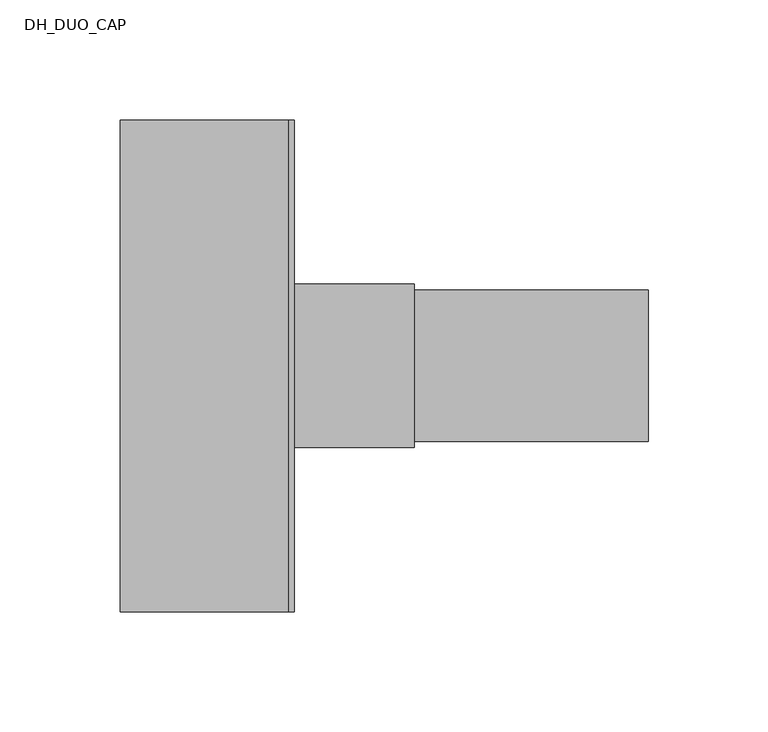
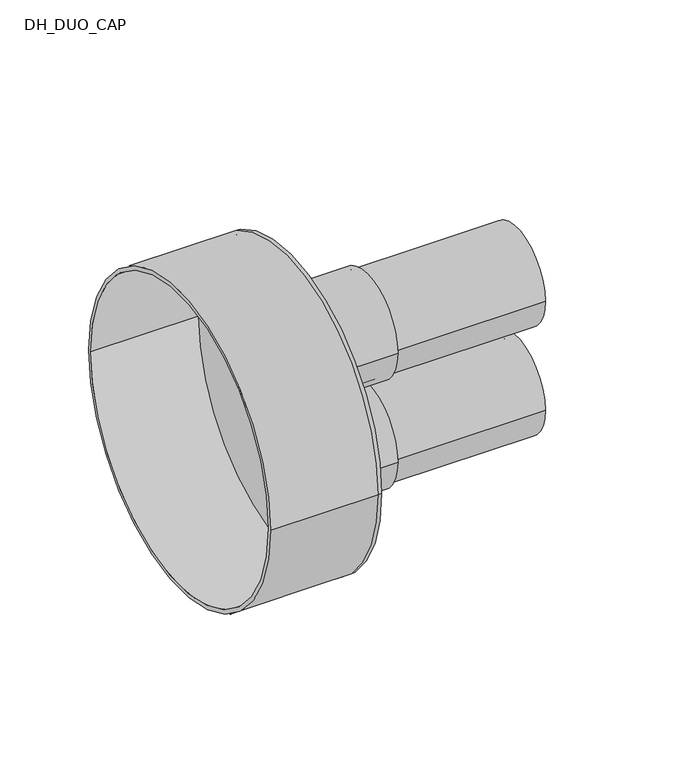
"""IFC4 building model written with IfcOpenShell, lengths in millimetres: pipe fitting geometry, DH_DUO_CAP : INSULPEX DUO + 11 Heating - Rubber Cap."""

import ifcopenshell
import ifcopenshell.guid

model = None  # the IFC model being written
_history = None  # IfcOwnerHistory: only IFC2X3 demands one
_inside = {}  # id of a spatial element -> (the spatial element, [elements in it])
_under = {}  # id of a project, library or spatial element -> (it, [spatial elements below it])
_declared = {}  # id of a project -> (the project, [libraries it declares])
_typed = {}  # id of a type object -> (the type object, [elements of that type])
_made_of = {}  # id of a material, layer set ... -> (it, [elements and type objects made of it])


def new_model(schema):
    """Start an empty IFC model of exactly this schema.

    Asked for "IFC4X3", IfcOpenShell would pick the latest addendum, in which some entities
    have other attributes; the version numbers below select the first issue.
    IFC2X3 requires an IfcOwnerHistory on every rooted entity: one is made here for all.
    """
    global model, _history
    if schema == "IFC4X3":
        model = ifcopenshell.file(schema_version=(4, 3, 0, 0))
    else:
        model = ifcopenshell.file(schema=schema)
    _inside.clear()
    _under.clear()
    _declared.clear()
    _typed.clear()
    _made_of.clear()
    _history = None
    if model.schema == "IFC2X3":
        org = make("IfcOrganization", Name="unknown")
        user = make(
            "IfcPersonAndOrganization",
            ThePerson=make("IfcPerson", FamilyName="unknown"),
            TheOrganization=org,
        )
        app = make(
            "IfcApplication",
            ApplicationDeveloper=org,
            Version="unknown",
            ApplicationFullName="unknown",
            ApplicationIdentifier="unknown",
        )
        _history = make(
            "IfcOwnerHistory",
            OwningUser=user,
            OwningApplication=app,
            ChangeAction="ADDED",
            CreationDate=0,
        )
    return model


def make(cls, **values):
    """One entity of the class cls with the attributes given. An attribute that is None is left unset."""
    return model.create_entity(
        cls, **{name: value for name, value in values.items() if value is not None}
    )


def rooted(cls, **values):
    """An entity with a GlobalId (a new one), such as an element, a storey or a relation."""
    return make(cls, GlobalId=ifcopenshell.guid.new(), OwnerHistory=_history, **values)


def si_unit(unit_type, name, prefix=None):
    """IfcSIUnit, for example si_unit("LENGTHUNIT", "METRE", prefix="MILLI")."""
    return make("IfcSIUnit", UnitType=unit_type, Prefix=prefix, Name=name)


def assignment(units):
    """IfcUnitAssignment: the units of a project."""
    return None if units is None else make("IfcUnitAssignment", Units=units)


def point(xyz):
    """IfcCartesianPoint."""
    return None if xyz is None else make("IfcCartesianPoint", Coordinates=xyz)


def direction(xyz):
    """IfcDirection."""
    return None if xyz is None else make("IfcDirection", DirectionRatios=xyz)


def frame(location, z_axis=None, x_axis=None):
    """IfcAxis2Placement3D, a coordinate frame: its origin and axes. An axis left out is left unset."""
    return make(
        "IfcAxis2Placement3D",
        Location=point(location),
        Axis=direction(z_axis),
        RefDirection=direction(x_axis),
    )


def frame_2d(location, x_axis=None):
    """IfcAxis2Placement2D, a coordinate frame in the plane: its origin and x axis."""
    return make(
        "IfcAxis2Placement2D", Location=point(location), RefDirection=direction(x_axis)
    )


def origin():
    """The frame at (0, 0, 0) with its axes left unset."""
    return frame((0.0, 0.0, 0.0))


def place(relative_to, where):
    """IfcLocalPlacement: puts the frame where relative to a parent placement (None: the world)."""
    return make(
        "IfcLocalPlacement", PlacementRelTo=relative_to, RelativePlacement=where
    )


def context(
    kind, dimensions, precision=None, world=None, true_north=None, identifier=None
):
    """IfcGeometricRepresentationContext, for example the 3D "Model" context."""
    return make(
        "IfcGeometricRepresentationContext",
        ContextIdentifier=identifier,
        ContextType=kind,
        CoordinateSpaceDimension=dimensions,
        Precision=precision,
        WorldCoordinateSystem=world,
        TrueNorth=true_north,
    )


def project(units=None, contexts=None):
    """IfcProject with its units and contexts."""
    return rooted(
        "IfcProject",
        Name="project",
        RepresentationContexts=contexts,
        UnitsInContext=assignment(units),
    )


def spatial(cls, under=None, at=None, **own):
    """A site, building, storey or space (cls), placed at a placement, below another one or the project."""
    s = rooted(cls, ObjectPlacement=at, **own)
    if under is not None:
        _under.setdefault(under.id(), (under, []))[1].append(s)
    return s


def polyline(points):
    """IfcPolyline through the points."""
    return make("IfcPolyline", Points=[point(p) for p in points])


def circle_curve(where, radius):
    """IfcCircle in the frame where."""
    return make("IfcCircle", Position=where, Radius=radius)


def trimmed(basis, trim1, trim2, sense, master):
    """IfcTrimmedCurve: the piece of a basis curve between two trims."""
    return make(
        "IfcTrimmedCurve",
        BasisCurve=basis,
        Trim1=trim1,
        Trim2=trim2,
        SenseAgreement=sense,
        MasterRepresentation=master,
    )


def segment(curve, same_sense, transition):
    """IfcCompositeCurveSegment."""
    return make(
        "IfcCompositeCurveSegment",
        Transition=transition,
        SameSense=same_sense,
        ParentCurve=curve,
    )


def composite_curve(segments, self_intersect=None):
    """IfcCompositeCurve: segments joined end to end."""
    return make("IfcCompositeCurve", Segments=segments, SelfIntersect=self_intersect)


def outline(outer, holes=None, kind="AREA"):
    """IfcArbitraryClosedProfileDef: a profile drawn as a closed curve; with holes, ...WithVoids."""
    if holes is None:
        return make("IfcArbitraryClosedProfileDef", ProfileType=kind, OuterCurve=outer)
    return make(
        "IfcArbitraryProfileDefWithVoids",
        ProfileType=kind,
        OuterCurve=outer,
        InnerCurves=holes,
    )


def extrude(swept, where, along, depth):
    """IfcExtrudedAreaSolid: the profile swept, set in the frame where, extruded along a direction by depth."""
    return make(
        "IfcExtrudedAreaSolid",
        SweptArea=swept,
        Position=where,
        ExtrudedDirection=direction(along),
        Depth=depth,
    )


def shape(context_of_items, identifier, shape_type, items):
    """IfcShapeRepresentation: the items that make up one representation, for example the "Body"."""
    return make(
        "IfcShapeRepresentation",
        ContextOfItems=context_of_items,
        RepresentationIdentifier=identifier,
        RepresentationType=shape_type,
        Items=items,
    )


def source(mapping_origin, context_of_items, identifier, shape_type, items):
    """IfcRepresentationMap: a shape defined once, which mapped items show again and again."""
    return make(
        "IfcRepresentationMap",
        MappingOrigin=mapping_origin,
        MappedRepresentation=shape(context_of_items, identifier, shape_type, items),
    )


def transform(
    local_origin,
    x_axis=None,
    y_axis=None,
    z_axis=None,
    scale=None,
    scale2=None,
    scale3=None,
    uniform=True,
):
    """IfcCartesianTransformationOperator3D, or its non-uniform kind. x_axis, y_axis, z_axis: its Axis1, 2, 3."""
    if uniform:
        return make(
            "IfcCartesianTransformationOperator3D",
            Axis1=direction(x_axis),
            Axis2=direction(y_axis),
            LocalOrigin=point(local_origin),
            Scale=scale,
            Axis3=direction(z_axis),
        )
    return make(
        "IfcCartesianTransformationOperator3DnonUniform",
        Axis1=direction(x_axis),
        Axis2=direction(y_axis),
        LocalOrigin=point(local_origin),
        Scale=scale,
        Axis3=direction(z_axis),
        Scale2=scale2,
        Scale3=scale3,
    )


def mapped(mapping_source, mapping_target):
    """IfcMappedItem: shows the shape of a source again, moved by a transform."""
    return make(
        "IfcMappedItem", MappingSource=mapping_source, MappingTarget=mapping_target
    )


def made_of(thing, what):
    """Note that an element or type object is made of a material, layer set ...; save() writes the relation."""
    if what is not None:
        _made_of.setdefault(what.id(), (what, []))[1].append(thing)
    return thing


def element(
    cls,
    number,
    at=None,
    inside=None,
    cuts=None,
    type_object=None,
    material=None,
    context=None,
    identifier="Body",
    shape_type=None,
    held_by="IfcProductDefinitionShape",
    body=None,
    shapes=None,
    **own,
):
    """One element of the class cls, such as IfcWall. Its Tag is "e" and its number.

    at: its placement. inside: the storey or other place that contains it. cuts: it is an
    opening in that element (IfcRelVoidsElement). A single representation is given by context,
    identifier, shape_type and body (its items); several are given by shapes. held_by: the class
    of the entity that holds the representations. save() writes the other relations.
    """
    e = rooted(cls, Tag="e%d" % number, ObjectPlacement=at, **own)
    if body is not None:
        shapes = [shape(context, identifier, shape_type, body)]
    if shapes is not None:
        e.Representation = make(held_by, Representations=shapes)
    if inside is not None:
        _inside.setdefault(inside.id(), (inside, []))[1].append(e)
    if cuts is not None:
        rooted(
            "IfcRelVoidsElement", RelatingBuildingElement=cuts, RelatedOpeningElement=e
        )
    if type_object is not None:
        _typed.setdefault(type_object.id(), (type_object, []))[1].append(e)
    return made_of(e, material)


def aggregate(whole, parts):
    """IfcRelAggregates: a whole, such as a stair, and the parts it consists of."""
    return rooted("IfcRelAggregates", RelatingObject=whole, RelatedObjects=parts)


def save(model, path):
    """Write the relations noted so far, then the file.

    IfcRelAggregates (storeys below a building ...), IfcRelContainedInSpatialStructure (elements
    in a storey), IfcRelDefinesByType, IfcRelAssociatesMaterial and IfcRelDeclares: one each for
    every whole, place, type object, material and project.
    """
    for whole, parts in _under.values():
        aggregate(whole, parts)
    for where, things in _inside.values():
        rooted(
            "IfcRelContainedInSpatialStructure",
            RelatedElements=things,
            RelatingStructure=where,
        )
    for kind, things in _typed.values():
        rooted("IfcRelDefinesByType", RelatedObjects=things, RelatingType=kind)
    for what, things in _made_of.values():
        rooted("IfcRelAssociatesMaterial", RelatedObjects=things, RelatingMaterial=what)
    for by, libraries in _declared.values():
        rooted("IfcRelDeclares", RelatingContext=by, RelatedDefinitions=libraries)
    model.write(path)


def plane_surface(at):
    """IfcPlane: the flat surface through the origin of the frame at, square to its z axis."""
    return make("IfcPlane", Position=at)


def cylinder_surface(at, radius):
    """IfcCylindricalSurface: all points at the distance radius from the z axis of the frame at."""
    return make("IfcCylindricalSurface", Position=at, Radius=radius)


def revolved_surface(curve, axis_point, axis_direction):
    """IfcSurfaceOfRevolution: the curve turned about the line through axis_point along axis_direction."""
    return make(
        "IfcSurfaceOfRevolution",
        SweptCurve=make("IfcArbitraryOpenProfileDef", ProfileType="CURVE", Curve=curve),
        AxisPosition=make("IfcAxis1Placement", Location=point(axis_point), Axis=direction(axis_direction)),
    )


def advanced_brep(points, edges, surfaces, faces):
    """IfcAdvancedBrep: a solid bounded by faces that lie on surfaces and meet in shared edges.

    An edge is (start, end): straight between two places in points (the first is 0);
    or (start, end, curve); or (start, end, curve, False) where it runs against its curve.
    A face is (place in surfaces, loops), or (place, loops, False) where it looks against
    its surface's normal. A loop lists edges by number (the first is 1), with a minus sign
    where the edge is run from its end to its start. The first loop is the outer one.
    """
    corners = [point(p) for p in points]
    vertices = [make("IfcVertexPoint", VertexGeometry=c) for c in corners]
    made = []
    for start, end, *more in edges:
        made.append(
            make(
                "IfcEdgeCurve",
                EdgeStart=vertices[start],
                EdgeEnd=vertices[end],
                EdgeGeometry=more[0] if more else make("IfcPolyline", Points=[corners[start], corners[end]]),
                SameSense=more[1] if len(more) > 1 else True,
            )
        )
    hull = []
    for where, loops, *sense in faces:
        bounds = []
        for j, loop in enumerate(loops):
            ring = [make("IfcOrientedEdge", EdgeElement=made[abs(k) - 1], Orientation=k > 0) for k in loop]
            bounds.append(
                make(
                    "IfcFaceOuterBound" if j == 0 else "IfcFaceBound",
                    Bound=make("IfcEdgeLoop", EdgeList=ring),
                    Orientation=True,
                )
            )
        hull.append(make("IfcAdvancedFace", Bounds=bounds, FaceSurface=surfaces[where], SameSense=sense[0] if sense else True))
    return make("IfcAdvancedBrep", Outer=make("IfcClosedShell", CfsFaces=hull))


def dh_duo_cap_72990c74(model_context):
    return source(origin(), model_context, "Body", "SolidModel", [
        extrude(outline(composite_curve([segment(trimmed(circle_curve(frame_2d((0.0, -37.5)), 31.5), [point((-31.5, -37.5))], [point((31.5, -37.5))], False, "CARTESIAN"), True, "CONTINUOUS"), segment(trimmed(circle_curve(frame_2d((0.0, -37.5)), 31.5), [point((31.5, -37.5))], [point((-31.5, -37.5))], False, "CARTESIAN"), True, "CONTINUOUS")], self_intersect=False), holes=[composite_curve([segment(trimmed(circle_curve(frame_2d((0.0, -37.5)), 25.7), [point((-25.7, -37.5))], [point((25.7, -37.5))], True, "CARTESIAN"), True, "CONTINUOUS"), segment(trimmed(circle_curve(frame_2d((0.0, -37.5)), 25.7), [point((25.7, -37.5))], [point((-25.7, -37.5))], True, "CARTESIAN"), True, "CONTINUOUS")], self_intersect=False)]), frame((0.0, 0.0, 0.0), z_axis=(1.0, 0.0, 0.0), x_axis=(0.0, 1.0, 0.0)), (0.0, 0.0, 1.0), 150.0),
        extrude(outline(composite_curve([segment(trimmed(circle_curve(frame_2d((0.0, 37.5)), 31.5), [point((-31.5, 37.5))], [point((31.5, 37.5))], False, "CARTESIAN"), True, "CONTINUOUS"), segment(trimmed(circle_curve(frame_2d((0.0, 37.5)), 31.5), [point((31.5, 37.5))], [point((-31.5, 37.5))], False, "CARTESIAN"), True, "CONTINUOUS")], self_intersect=False), holes=[composite_curve([segment(trimmed(circle_curve(frame_2d((0.0, 37.5)), 25.7), [point((-25.7, 37.5))], [point((25.7, 37.5))], True, "CARTESIAN"), True, "CONTINUOUS"), segment(trimmed(circle_curve(frame_2d((0.0, 37.5)), 25.7), [point((25.7, 37.5))], [point((-25.7, 37.5))], True, "CARTESIAN"), True, "CONTINUOUS")], self_intersect=False)]), frame((0.0, 0.0, 0.0), z_axis=(1.0, 0.0, 0.0), x_axis=(0.0, 1.0, 0.0)), (0.0, 0.0, 1.0), 150.0),
        advanced_brep(
        [(-70.0, -102.5, 0.0), (-70.0, 102.5, 0.0), (-70.0, -100.0, 0.0), (-70.0, 100.0, 0.0), (0.0, -100.0, 0.0), (0.0, 100.0, 0.0), (0.0, -102.5, 0.0), (0.0, 102.5, 0.0), (0.0, 31.5, 37.5), (0.0, -31.5, 37.5), (0.0, 31.5, -37.5), (0.0, -31.5, -37.5), (2.5, -102.5, 0.0), (2.5, 102.5, 0.0), (2.5, -31.5, 37.5), (2.5, 31.5, 37.5), (2.5, -31.5, -37.5), (2.5, 31.5, -37.5)],
        [
            (0, 1, circle_curve(frame((-70.0, 0.0, 0.0), z_axis=(-1.0, 0.0, 0.0), x_axis=(0.0, 1.0, 0.0)), 102.5)),
            (1, 0, circle_curve(frame((-70.0, 0.0, 0.0), z_axis=(-1.0, 0.0, 0.0), x_axis=(0.0, 1.0, 0.0)), 102.5)),
            (2, 3, circle_curve(frame((-70.0, 0.0, 0.0), z_axis=(1.0, 0.0, 0.0), x_axis=(0.0, 1.0, 0.0)), 100.0)),
            (3, 2, circle_curve(frame((-70.0, 0.0, 0.0), z_axis=(1.0, 0.0, 0.0), x_axis=(0.0, 1.0, 0.0)), 100.0)),
            (2, 4),
            (4, 5, circle_curve(frame((0.0, 0.0, 0.0), z_axis=(1.0, 0.0, 0.0), x_axis=(0.0, 1.0, 0.0)), 100.0)),
            (5, 3),
            (5, 4, circle_curve(frame((0.0, 0.0, 0.0), z_axis=(1.0, 0.0, 0.0), x_axis=(0.0, 1.0, 0.0)), 100.0)),
            (0, 6),
            (6, 7, circle_curve(frame((0.0, 0.0, 0.0), z_axis=(-1.0, 0.0, 0.0), x_axis=(0.0, 1.0, 0.0)), 102.5)),
            (7, 1),
            (7, 6, circle_curve(frame((0.0, 0.0, 0.0), z_axis=(-1.0, 0.0, 0.0), x_axis=(0.0, 1.0, 0.0)), 102.5)),
            (8, 9, circle_curve(frame((0.0, 0.0, 37.5), z_axis=(1.0, 0.0, 0.0), x_axis=(0.0, 1.0, 0.0)), 31.5)),
            (9, 8, circle_curve(frame((0.0, 0.0, 37.5), z_axis=(1.0, 0.0, 0.0), x_axis=(0.0, 1.0, 0.0)), 31.5)),
            (10, 11, circle_curve(frame((0.0, 0.0, -37.5), z_axis=(1.0, 0.0, 0.0), x_axis=(0.0, 1.0, 0.0)), 31.5)),
            (11, 10, circle_curve(frame((0.0, 0.0, -37.5), z_axis=(1.0, 0.0, 0.0), x_axis=(0.0, 1.0, 0.0)), 31.5)),
            (12, 13, circle_curve(frame((2.5, 0.0, 0.0), z_axis=(1.0, 0.0, 0.0), x_axis=(0.0, 1.0, 0.0)), 102.5)),
            (13, 12, circle_curve(frame((2.5, 0.0, 0.0), z_axis=(1.0, 0.0, 0.0), x_axis=(0.0, 1.0, 0.0)), 102.5)),
            (14, 15, circle_curve(frame((2.5, 0.0, 37.5), z_axis=(-1.0, 0.0, 0.0), x_axis=(0.0, 1.0, 0.0)), 31.5)),
            (15, 14, circle_curve(frame((2.5, 0.0, 37.5), z_axis=(-1.0, 0.0, 0.0), x_axis=(0.0, 1.0, 0.0)), 31.5)),
            (16, 17, circle_curve(frame((2.5, 0.0, -37.5), z_axis=(-1.0, 0.0, 0.0), x_axis=(0.0, 1.0, 0.0)), 31.5)),
            (17, 16, circle_curve(frame((2.5, 0.0, -37.5), z_axis=(-1.0, 0.0, 0.0), x_axis=(0.0, 1.0, 0.0)), 31.5)),
            (13, 7),
            (6, 12),
            (8, 15),
            (14, 9),
            (10, 17),
            (16, 11),
        ],
        [
            plane_surface(frame((-70.0, 0.0, 0.0), z_axis=(-1.0, 0.0, 0.0), x_axis=(0.0, 0.0, 1.0))),
            revolved_surface(polyline([(0.0, 100.0, 0.0), (-70.0, 100.0, 0.0)]), (-70.0, 0.0, 0.0), (1.0, 0.0, 0.0)),
            cylinder_surface(frame((-70.0, 0.0, 0.0), z_axis=(-1.0, 0.0, 0.0), x_axis=(0.0, 1.0, 0.0)), 102.5),
            plane_surface(frame((0.0, 0.0, 0.0), z_axis=(-1.0, 0.0, 0.0), x_axis=(0.0, 0.0, 1.0))),
            plane_surface(frame((2.5, 0.0, 0.0), z_axis=(1.0, 0.0, 0.0), x_axis=(0.0, 0.0, 1.0))),
            cylinder_surface(frame((0.0, 0.0, 0.0), z_axis=(-1.0, 0.0, 0.0), x_axis=(0.0, 1.0, 0.0)), 102.5),
            revolved_surface(polyline([(0.0, 31.5, 37.5), (2.5, 31.5, 37.5)]), (0.0, 0.0, 37.5), (-1.0, 0.0, 0.0)),
            revolved_surface(polyline([(0.0, 31.5, -37.5), (2.5, 31.5, -37.5)]), (0.0, 0.0, -37.5), (-1.0, 0.0, 0.0)),
        ],
        [
            (0, [[1, 2], [3, 4]]),
            (1, [[-3, 5, 6, 7]]),
            (1, [[-4, -7, 8, -5]]),
            (2, [[-1, 9, 10, 11]]),
            (2, [[-2, -11, 12, -9]]),
            (3, [[-6, -8], [13, 14], [15, 16]]),
            (4, [[17, 18], [19, 20], [21, 22]]),
            (5, [[-18, 23, -10, 24]]),
            (5, [[-17, -24, -12, -23]]),
            (6, [[25, -19, 26, -13]]),
            (6, [[-25, -14, -26, -20]]),
            (7, [[27, -21, 28, -15]]),
            (7, [[-27, -16, -28, -22]]),
        ],
    ),
        extrude(outline(composite_curve([segment(trimmed(circle_curve(frame_2d((0.0, -37.5)), 34.0), [point((-34.0, -37.5))], [point((34.0, -37.5))], False, "CARTESIAN"), True, "CONTINUOUS"), segment(trimmed(circle_curve(frame_2d((0.0, -37.5)), 34.0), [point((34.0, -37.5))], [point((-34.0, -37.5))], False, "CARTESIAN"), True, "CONTINUOUS")], self_intersect=False), holes=[composite_curve([segment(trimmed(circle_curve(frame_2d((0.0, -37.5)), 31.5), [point((-31.5, -37.5))], [point((31.5, -37.5))], True, "CARTESIAN"), True, "CONTINUOUS"), segment(trimmed(circle_curve(frame_2d((0.0, -37.5)), 31.5), [point((31.5, -37.5))], [point((-31.5, -37.5))], True, "CARTESIAN"), True, "CONTINUOUS")], self_intersect=False)]), frame((2.5, 0.0, 0.0), z_axis=(1.0, 0.0, 0.0), x_axis=(0.0, 1.0, 0.0)), (0.0, 0.0, 1.0), 50.0),
        extrude(outline(composite_curve([segment(trimmed(circle_curve(frame_2d((0.0, 37.5)), 34.0), [point((-34.0, 37.5))], [point((34.0, 37.5))], False, "CARTESIAN"), True, "CONTINUOUS"), segment(trimmed(circle_curve(frame_2d((0.0, 37.5)), 34.0), [point((34.0, 37.5))], [point((-34.0, 37.5))], False, "CARTESIAN"), True, "CONTINUOUS")], self_intersect=False), holes=[composite_curve([segment(trimmed(circle_curve(frame_2d((0.0, 37.5)), 31.5), [point((-31.5, 37.5))], [point((31.5, 37.5))], True, "CARTESIAN"), True, "CONTINUOUS"), segment(trimmed(circle_curve(frame_2d((0.0, 37.5)), 31.5), [point((31.5, 37.5))], [point((-31.5, 37.5))], True, "CARTESIAN"), True, "CONTINUOUS")], self_intersect=False)]), frame((2.5, 0.0, 0.0), z_axis=(1.0, 0.0, 0.0), x_axis=(0.0, 1.0, 0.0)), (0.0, 0.0, 1.0), 50.0),
    ])


if __name__ == "__main__":
    model = new_model("IFC4")
    model_context = context("Model", 3, world=origin())
    ifc_project = project(units=[si_unit("LENGTHUNIT", "METRE", prefix="MILLI")], contexts=[model_context])
    site = spatial("IfcSite", under=ifc_project)
    building = spatial("IfcBuilding", under=site)
    placement = place(None, origin())
    dh_duo_cap_shape = dh_duo_cap_72990c74(model_context)
    element("IfcPipeFitting", 1, ObjectType="DH_DUO_CAP : INSULPEX DUO + 11 Heating - Rubber Cap", at=placement, inside=building, context=model_context, shape_type="MappedRepresentation", body=[
        mapped(dh_duo_cap_shape, transform((0.0, 0.0, 0.0), x_axis=(1.0, 0.0, 0.0), y_axis=(0.0, 1.0, 0.0), z_axis=(0.0, 0.0, 1.0))),
    ])
    save(model, "model.ifc")
